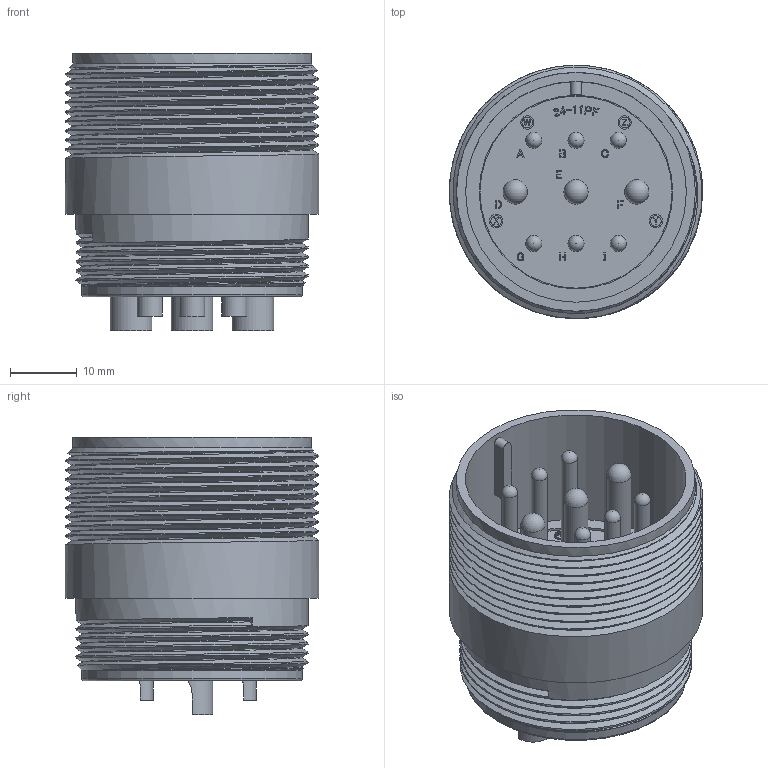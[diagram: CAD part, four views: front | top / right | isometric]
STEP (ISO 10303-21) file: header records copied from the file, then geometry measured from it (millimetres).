
FILE_DESCRIPTION (( 'STEP AP203' ), '1' );
FILE_NAME ('DMS3101A24-11P(D263).STEP', '2022-02-17T01:01:33', ( '' ), ( '' ), 'SwSTEP 2.0', 'SolidWorks 2018', '' );
FILE_SCHEMA (( 'CONFIG_CONTROL_DESIGN' ));
Length unit declared in the file: millimetre
Products named in the file (1): DMS3101A24-11P(D263)
Bounding box: 38.06 x 38.06 x 41.66 mm (x, y, z)
Volume: 18992.5 mm3; surface area: 14665.3 mm2
Topology: 1 solids, 1 shells, 776 faces, 2011 edges, 1323 vertices
Faces by surface type: plane 456, bspline 178, cylinder 113, torus 24, sphere 3, cone 2
Full cylindrical faces by diameter (mm): 1.6 x4, 2 x4, 2.41 x6, 2.85 x6, 3.63 x3, 3.79 x6, 3.9 x6, 5.21 x3, 6.25 x3, 8.992 x1, 26.21 x1, 28.85 x1, 29.08 x1, 30.75 x1, 33.12 x1, 33.15 x1, 34.88 x4, 35.87 x1, 38.06 x8
Entity records: 31498 total; most frequent: CARTESIAN_POINT 14355, ORIENTED_EDGE 3764, DIRECTION 2848, EDGE_CURVE 1882, VECTOR 1288, LINE 1288, VERTEX_POINT 1273, EDGE_LOOP 917
